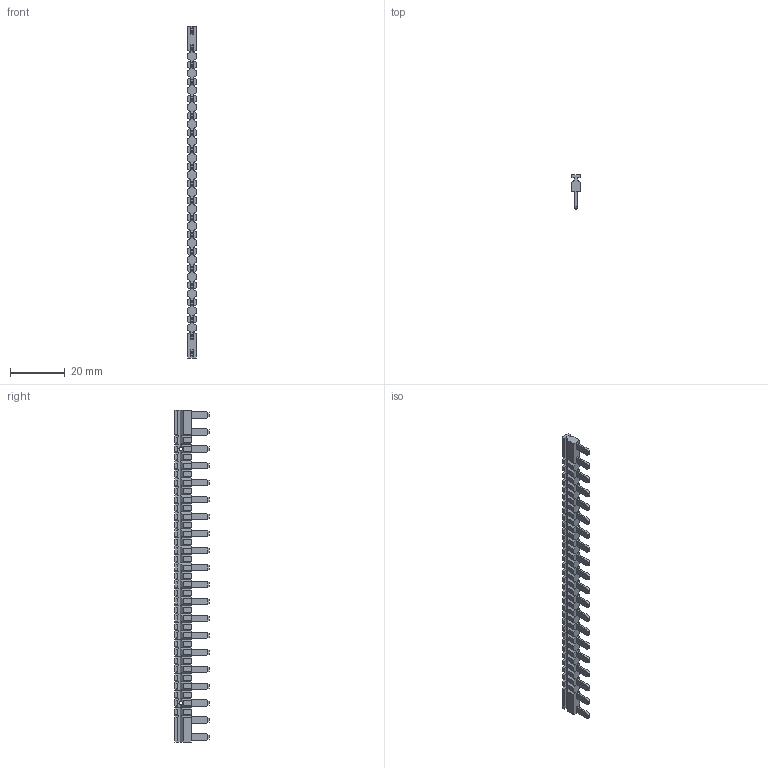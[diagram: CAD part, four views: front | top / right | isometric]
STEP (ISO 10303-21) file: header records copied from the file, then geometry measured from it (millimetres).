
FILE_DESCRIPTION (( 'STEP AP203' ), '1' );
FILE_NAME ('SN20A连接桥6.317.640.00SW.STEP', '2024-11-28T06:28:08', ( 'admin' ), ( '' ), 'SwSTEP 2.0', 'SolidWorks 2022', '' );
FILE_SCHEMA (( 'CONFIG_CONTROL_DESIGN' ));
Length unit declared in the file: millimetre
Products named in the file (1): SN20A连接桥6.317.640.00SW
Bounding box: 3.1 x 12.5 x 121.3 mm (x, y, z)
Volume: 1910 mm3; surface area: 3595.1 mm2
Topology: 1 solids, 1 shells, 674 faces, 1968 edges, 1312 vertices
Faces by surface type: plane 670, cylinder 4
Entity records: 21925 total; most frequent: CARTESIAN_POINT 3979, ORIENTED_EDGE 3936, DIRECTION 3318, EDGE_CURVE 1968, VECTOR 1952, LINE 1952, VERTEX_POINT 1312, EDGE_LOOP 694
